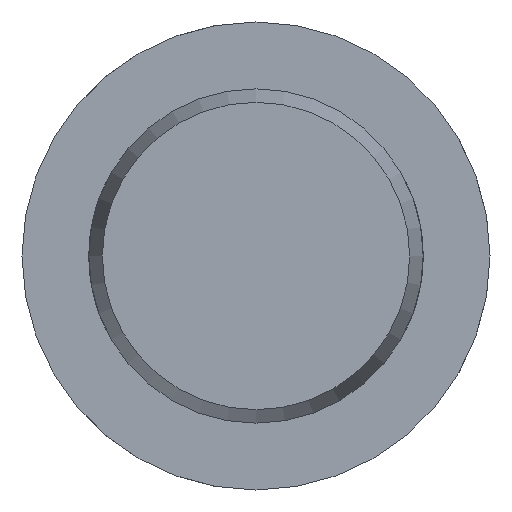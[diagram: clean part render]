
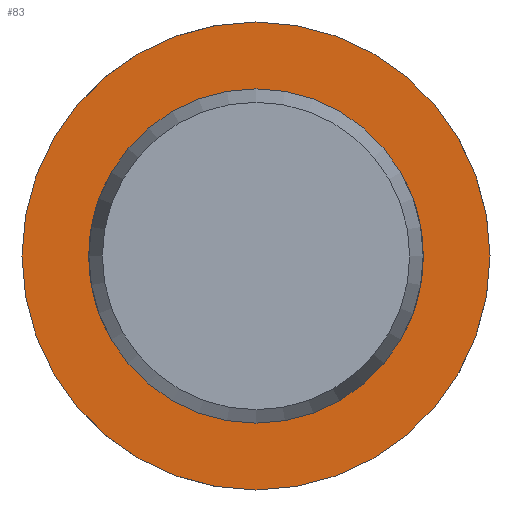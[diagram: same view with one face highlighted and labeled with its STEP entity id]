
A CAD part, left-side view. The second image highlights one B-rep face of the part: STEP entity #83.
In plain terms, the highlighted planar face has unit normal (-1, 0, 0).
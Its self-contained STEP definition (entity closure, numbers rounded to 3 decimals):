
#83 = ADVANCED_FACE( '', ( #129, #130 ), #131, .F. );
#129 = FACE_OUTER_BOUND( '', #208, .T. );
#130 = FACE_BOUND( '', #209, .T. );
#131 = PLANE( '', #210 );
#208 = EDGE_LOOP( '', ( #325 ) );
#209 = EDGE_LOOP( '', ( #326 ) );
#210 = AXIS2_PLACEMENT_3D( '', #327, #328, #329 );
#325 = ORIENTED_EDGE( '', *, *, #493, .F. );
#326 = ORIENTED_EDGE( '', *, *, #483, .T. );
#327 = CARTESIAN_POINT( '', ( 120.5, 10., 0. ) );
#328 = DIRECTION( '', ( 1., 0., 0. ) );
#329 = DIRECTION( '', ( 0., 0., -1. ) );
#483 = EDGE_CURVE( '', #554, #554, #555, .T. );
#493 = EDGE_CURVE( '', #572, #572, #573, .T. );
#554 = VERTEX_POINT( '', #759 );
#555 = CIRCLE( '', #760, 10. );
#572 = VERTEX_POINT( '', #942 );
#573 = CIRCLE( '', #943, 14. );
#759 = CARTESIAN_POINT( '', ( 120.5, 0., -10. ) );
#760 = AXIS2_PLACEMENT_3D( '', #1006, #1007, #1008 );
#942 = CARTESIAN_POINT( '', ( 120.5, 0., -14. ) );
#943 = AXIS2_PLACEMENT_3D( '', #1027, #1028, #1029 );
#1006 = CARTESIAN_POINT( '', ( 120.5, 0., 0. ) );
#1007 = DIRECTION( '', ( 1., 0., 0. ) );
#1008 = DIRECTION( '', ( 0., 0., -1. ) );
#1027 = CARTESIAN_POINT( '', ( 120.5, 0., 0. ) );
#1028 = DIRECTION( '', ( 1., 0., 0. ) );
#1029 = DIRECTION( '', ( 0., 0., -1. ) );
